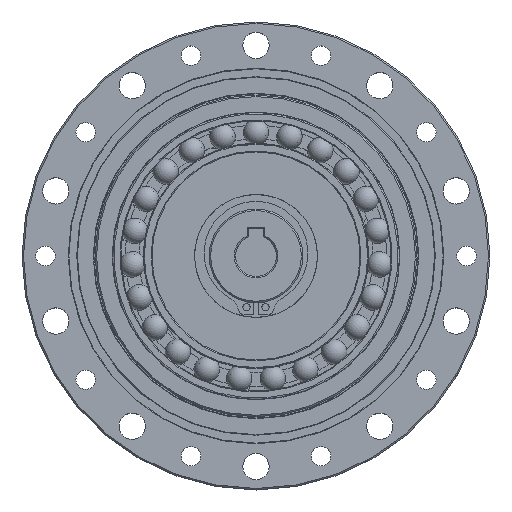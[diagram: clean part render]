
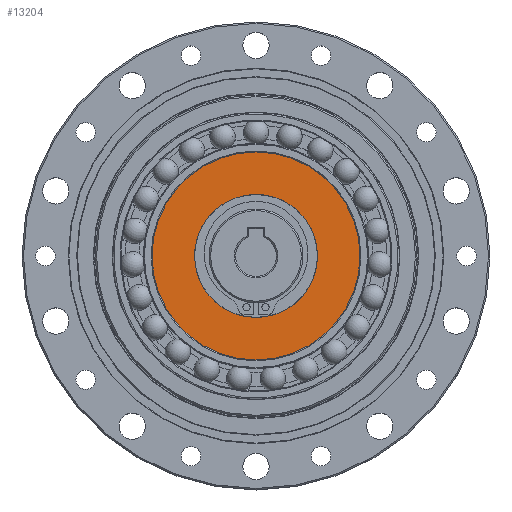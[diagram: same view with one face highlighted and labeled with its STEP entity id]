
A CAD part, top view. The second image highlights one B-rep face of the part: STEP entity #13204.
In plain terms, the highlighted planar face has unit normal (0, 0, 1).
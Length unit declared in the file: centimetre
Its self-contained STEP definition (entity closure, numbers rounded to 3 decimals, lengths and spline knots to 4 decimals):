
#1622=FACE_BOUND('',#3728,.T.);
#1623=FACE_BOUND('',#3729,.T.);
#2016=PLANE('',#14702);
#3728=EDGE_LOOP('',(#11064));
#3729=EDGE_LOOP('',(#11065));
#4849=CIRCLE('',#14703,2.1);
#4850=CIRCLE('',#14704,3.556);
#7063=VERTEX_POINT('',#22071);
#7064=VERTEX_POINT('',#22073);
#8555=EDGE_CURVE('',#7063,#7063,#4849,.T.);
#8556=EDGE_CURVE('',#7064,#7064,#4850,.T.);
#11064=ORIENTED_EDGE('',*,*,#8555,.T.);
#11065=ORIENTED_EDGE('',*,*,#8556,.F.);
#13204=ADVANCED_FACE('',(#1622,#1623),#2016,.T.);
#14702=AXIS2_PLACEMENT_3D('',#22070,#17897,#17898);
#14703=AXIS2_PLACEMENT_3D('',#22072,#17899,#17900);
#14704=AXIS2_PLACEMENT_3D('',#22074,#17901,#17902);
#17897=DIRECTION('center_axis',(0.,0.,
1.));
#17898=DIRECTION('ref_axis',(0.,-1.,0.));
#17899=DIRECTION('center_axis',(0.,0.,
-1.));
#17900=DIRECTION('ref_axis',(0.988,-0.153,0.));
#17901=DIRECTION('center_axis',(0.,0.,
-1.));
#17902=DIRECTION('ref_axis',(0.,-1.,0.));
#22070=CARTESIAN_POINT('Origin',(3.556,0.,6.725));
#22071=CARTESIAN_POINT('',(-2.0753,0.3209,6.725));
#22072=CARTESIAN_POINT('Origin',(0.,0.,
6.725));
#22073=CARTESIAN_POINT('',(3.556,0.,6.725));
#22074=CARTESIAN_POINT('Origin',(0.,0.,
6.725));
